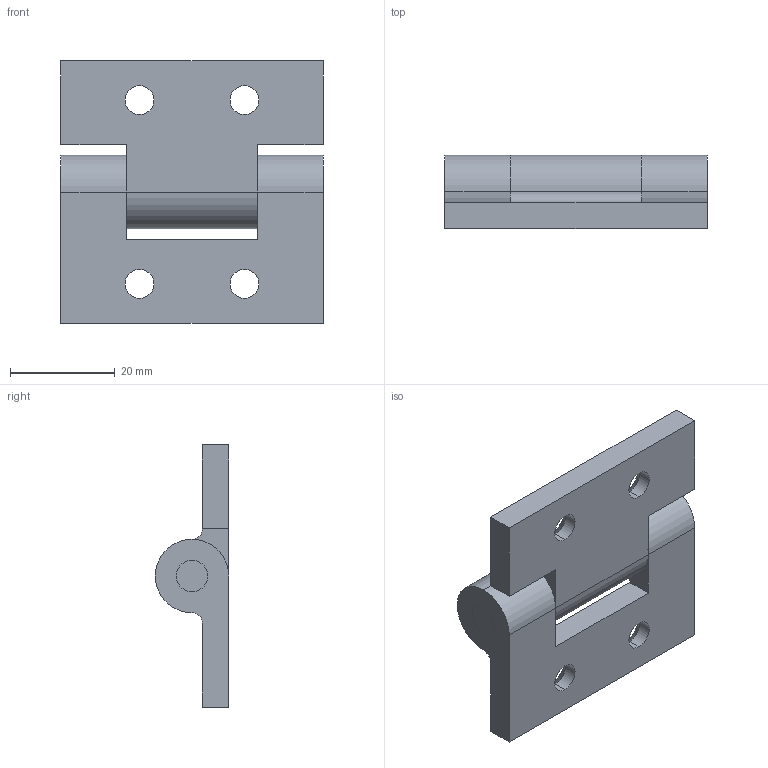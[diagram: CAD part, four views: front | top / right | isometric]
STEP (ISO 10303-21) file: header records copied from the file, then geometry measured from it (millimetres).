
FILE_DESCRIPTION (( 'STEP AP203' ), '1' );
FILE_NAME ('B04-20004.STEP', '2024-10-25T09:18:14', ( '' ), ( '' ), 'SwSTEP 2.0', 'SolidWorks 2021', '' );
FILE_SCHEMA (( 'CONFIG_CONTROL_DESIGN' ));
Length unit declared in the file: millimetre
Products named in the file (4): B04-20004; B04-4-2; B04軸心6-53; B04-4-1
Assembly tree (3 placements, depth 2):
  B04-20004
    B04-4-1
    B04-4-2
    B04軸心6-53
Bounding box: 50 x 14 x 50 mm (x, y, z)
Volume: 16021.4 mm3; surface area: 9437.7 mm2
Topology: 3 solids, 3 shells, 52 faces, 126 edges, 80 vertices
Faces by surface type: cylinder 25, plane 19, cone 8
Entity records: 1974 total; most frequent: DIRECTION 300, CARTESIAN_POINT 264, ORIENTED_EDGE 252, EDGE_CURVE 126, AXIS2_PLACEMENT_3D 116, VERTEX_POINT 80, VECTOR 68, LINE 68
